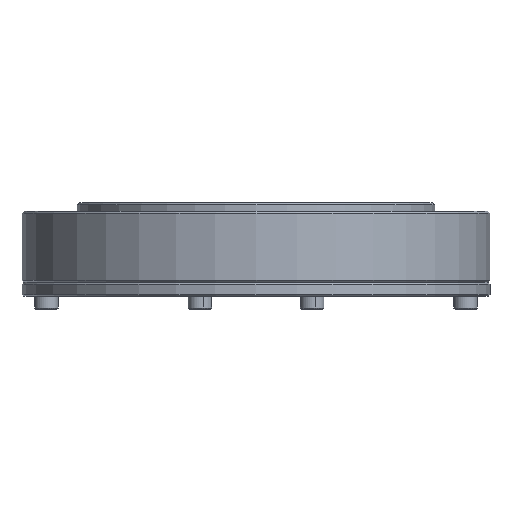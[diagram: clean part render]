
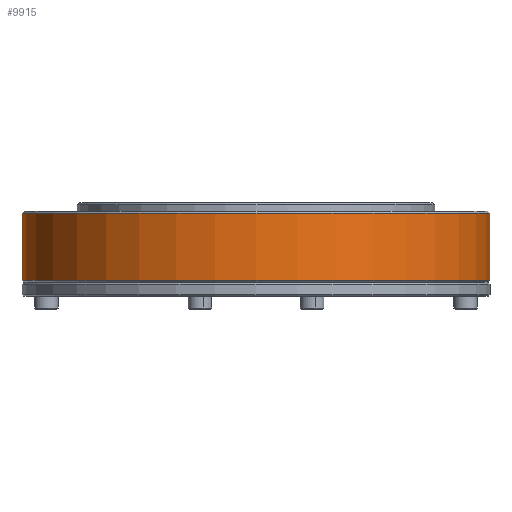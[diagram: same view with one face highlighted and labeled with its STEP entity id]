
A CAD part, front view. The second image highlights one B-rep face of the part: STEP entity #9915.
In plain terms, the highlighted cylindrical face has radius 55 mm (diameter 110 mm), a partial arc.
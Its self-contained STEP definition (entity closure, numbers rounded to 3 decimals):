
#118 = CARTESIAN_POINT ( 'NONE',  ( -60.685, -6.538, 117.35 ) ) ;
#176 = VERTEX_POINT ( 'NONE', #5467 ) ;
#186 = DIRECTION ( 'NONE',  ( 1., 0., 0. ) ) ;
#267 = DIRECTION ( 'NONE',  ( 0., 0., 1. ) ) ;
#324 = AXIS2_PLACEMENT_3D ( 'NONE', #3405, #5318, #10741 ) ;
#326 = CARTESIAN_POINT ( 'NONE',  ( -5.685, -6.538, 101.15 ) ) ;
#1190 = CARTESIAN_POINT ( 'NONE',  ( -60.685, -6.538, 101.15 ) ) ;
#2082 = CARTESIAN_POINT ( 'NONE',  ( 49.315, -6.538, 116.85 ) ) ;
#2313 = VERTEX_POINT ( 'NONE', #3530 ) ;
#3244 = AXIS2_PLACEMENT_3D ( 'NONE', #326, #267, #186 ) ;
#3405 = CARTESIAN_POINT ( 'NONE',  ( -5.685, -6.538, 117.35 ) ) ;
#3530 = CARTESIAN_POINT ( 'NONE',  ( 49.315, -6.538, 101.15 ) ) ;
#3662 = ORIENTED_EDGE ( 'NONE', *, *, #4176, .T. ) ;
#3687 = ORIENTED_EDGE ( 'NONE', *, *, #8540, .T. ) ;
#3817 = ORIENTED_EDGE ( 'NONE', *, *, #5208, .T. ) ;
#3958 = ORIENTED_EDGE ( 'NONE', *, *, #11218, .F. ) ;
#4090 = DIRECTION ( 'NONE',  ( 0., 0., -1. ) ) ;
#4176 = EDGE_CURVE ( 'NONE', #10451, #2313, #4601, .T. ) ;
#4601 = CIRCLE ( 'NONE', #3244, 55. ) ;
#5208 = EDGE_CURVE ( 'NONE', #10349, #176, #7383, .T. ) ;
#5318 = DIRECTION ( 'NONE',  ( 0., 0., -1. ) ) ;
#5467 = CARTESIAN_POINT ( 'NONE',  ( -60.685, -6.538, 116.85 ) ) ;
#5713 = CYLINDRICAL_SURFACE ( 'NONE', #324, 55. ) ;
#6327 = VECTOR ( 'NONE', #11854, 1000. ) ;
#6441 = FACE_OUTER_BOUND ( 'NONE', #6853, .T. ) ;
#6853 = EDGE_LOOP ( 'NONE', ( #3958, #3817, #3687, #3662 ) ) ;
#7383 = CIRCLE ( 'NONE', #8477, 55. ) ;
#7843 = CARTESIAN_POINT ( 'NONE',  ( 49.315, -6.538, 117.35 ) ) ;
#8401 = LINE ( 'NONE', #118, #6327 ) ;
#8477 = AXIS2_PLACEMENT_3D ( 'NONE', #8656, #8625, #8577 ) ;
#8540 = EDGE_CURVE ( 'NONE', #176, #10451, #8401, .T. ) ;
#8577 = DIRECTION ( 'NONE',  ( 1., 0., 0. ) ) ;
#8625 = DIRECTION ( 'NONE',  ( 0., 0., -1. ) ) ;
#8656 = CARTESIAN_POINT ( 'NONE',  ( -5.685, -6.538, 116.85 ) ) ;
#9915 = ADVANCED_FACE ( 'NONE', ( #6441 ), #5713, .T. ) ;
#10349 = VERTEX_POINT ( 'NONE', #2082 ) ;
#10451 = VERTEX_POINT ( 'NONE', #1190 ) ;
#10549 = VECTOR ( 'NONE', #4090, 1000. ) ;
#10741 = DIRECTION ( 'NONE',  ( -1., 0., 0. ) ) ;
#10921 = LINE ( 'NONE', #7843, #10549 ) ;
#11218 = EDGE_CURVE ( 'NONE', #10349, #2313, #10921, .T. ) ;
#11854 = DIRECTION ( 'NONE',  ( 0., 0., -1. ) ) ;
